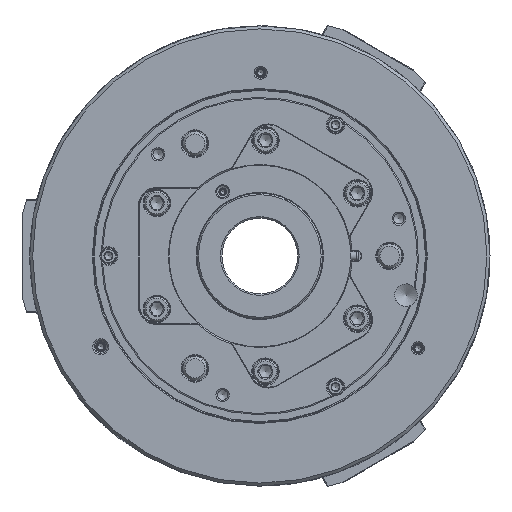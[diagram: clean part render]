
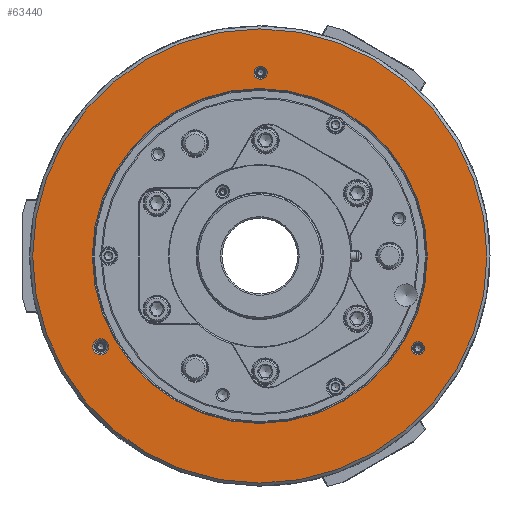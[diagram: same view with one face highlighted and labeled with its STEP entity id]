
A CAD part, left-side view. The second image highlights one B-rep face of the part: STEP entity #63440.
In plain terms, the highlighted planar face has unit normal (-1, 0, 0).
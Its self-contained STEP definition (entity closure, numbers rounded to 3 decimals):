
#4 = AXIS2_PLACEMENT_3D ( 'NONE', #84487, #15840, #14882 ) ;
#890 = AXIS2_PLACEMENT_3D ( 'NONE', #54603, #71445, #8863 ) ;
#8642 = FACE_BOUND ( 'NONE', #28116, .T. ) ;
#8863 = DIRECTION ( 'NONE',  ( 0., 0., 1. ) ) ;
#11859 = EDGE_CURVE ( 'NONE', #48076, #48076, #86859, .T. ) ;
#12226 = ORIENTED_EDGE ( 'NONE', *, *, #11859, .F. ) ;
#14127 = ORIENTED_EDGE ( 'NONE', *, *, #64321, .F. ) ;
#14775 = EDGE_LOOP ( 'NONE', ( #49657 ) ) ;
#14882 = DIRECTION ( 'NONE',  ( 0., 0., -1. ) ) ;
#15840 = DIRECTION ( 'NONE',  ( 1., 0., 0. ) ) ;
#19441 = ORIENTED_EDGE ( 'NONE', *, *, #47058, .F. ) ;
#22896 = DIRECTION ( 'NONE',  ( 0., 0., -1. ) ) ;
#23554 = DIRECTION ( 'NONE',  ( 0., 0., -1. ) ) ;
#25529 = FACE_BOUND ( 'NONE', #77896, .T. ) ;
#28116 = EDGE_LOOP ( 'NONE', ( #12226 ) ) ;
#32499 = DIRECTION ( 'NONE',  ( 1., 0., 0. ) ) ;
#34224 = AXIS2_PLACEMENT_3D ( 'NONE', #69602, #75143, #22896 ) ;
#34269 = EDGE_CURVE ( 'NONE', #90672, #90672, #42874, .T. ) ;
#38899 = AXIS2_PLACEMENT_3D ( 'NONE', #77755, #32499, #23554 ) ;
#38968 = FACE_OUTER_BOUND ( 'NONE', #78920, .T. ) ;
#38971 = CIRCLE ( 'NONE', #34224, 150. ) ;
#42874 = CIRCLE ( 'NONE', #4, 5.3 ) ;
#43780 = CIRCLE ( 'NONE', #890, 4.3 ) ;
#46732 = CARTESIAN_POINT ( 'NONE',  ( -138., 0., -150. ) ) ;
#46864 = CARTESIAN_POINT ( 'NONE',  ( -138., 105., -65.3 ) ) ;
#47058 = EDGE_CURVE ( 'NONE', #49797, #49797, #43780, .T. ) ;
#48076 = VERTEX_POINT ( 'NONE', #92861 ) ;
#48304 = CARTESIAN_POINT ( 'NONE',  ( -138., 0., 0. ) ) ;
#49657 = ORIENTED_EDGE ( 'NONE', *, *, #34269, .T. ) ;
#49797 = VERTEX_POINT ( 'NONE', #57264 ) ;
#54603 = CARTESIAN_POINT ( 'NONE',  ( -138., -0.538, 120.933 ) ) ;
#56018 = EDGE_LOOP ( 'NONE', ( #87901 ) ) ;
#57264 = CARTESIAN_POINT ( 'NONE',  ( -138., -0.538, 125.233 ) ) ;
#58733 = DIRECTION ( 'NONE',  ( 0., 0., 1. ) ) ;
#60184 = VERTEX_POINT ( 'NONE', #46732 ) ;
#61816 = FACE_BOUND ( 'NONE', #56018, .T. ) ;
#63440 = ADVANCED_FACE ( 'NONE', ( #25529, #8642, #63777, #38968, #61816 ), #93184, .F. ) ;
#63777 = FACE_BOUND ( 'NONE', #14775, .T. ) ;
#64321 = EDGE_CURVE ( 'NONE', #60184, #60184, #38971, .T. ) ;
#64347 = VERTEX_POINT ( 'NONE', #71796 ) ;
#69340 = AXIS2_PLACEMENT_3D ( 'NONE', #75168, #96563, #58733 ) ;
#69602 = CARTESIAN_POINT ( 'NONE',  ( -138., 0., 0. ) ) ;
#70194 = DIRECTION ( 'NONE',  ( 0., 0., -1. ) ) ;
#70256 = AXIS2_PLACEMENT_3D ( 'NONE', #48304, #79158, #70194 ) ;
#71445 = DIRECTION ( 'NONE',  ( -1., 0., 0. ) ) ;
#71796 = CARTESIAN_POINT ( 'NONE',  ( -138., 0., -110.6 ) ) ;
#75143 = DIRECTION ( 'NONE',  ( 1., 0., 0. ) ) ;
#75168 = CARTESIAN_POINT ( 'NONE',  ( -138., -104.462, -60.933 ) ) ;
#77755 = CARTESIAN_POINT ( 'NONE',  ( -138., -150., 0. ) ) ;
#77896 = EDGE_LOOP ( 'NONE', ( #19441 ) ) ;
#78920 = EDGE_LOOP ( 'NONE', ( #14127 ) ) ;
#79158 = DIRECTION ( 'NONE',  ( 1., 0., 0. ) ) ;
#84487 = CARTESIAN_POINT ( 'NONE',  ( -138., 105., -60. ) ) ;
#86859 = CIRCLE ( 'NONE', #69340, 4.3 ) ;
#87901 = ORIENTED_EDGE ( 'NONE', *, *, #96733, .T. ) ;
#89317 = CIRCLE ( 'NONE', #70256, 110.6 ) ;
#90672 = VERTEX_POINT ( 'NONE', #46864 ) ;
#92861 = CARTESIAN_POINT ( 'NONE',  ( -138., -104.462, -56.633 ) ) ;
#93184 = PLANE ( 'NONE',  #38899 ) ;
#96563 = DIRECTION ( 'NONE',  ( -1., 0., 0. ) ) ;
#96733 = EDGE_CURVE ( 'NONE', #64347, #64347, #89317, .T. ) ;
